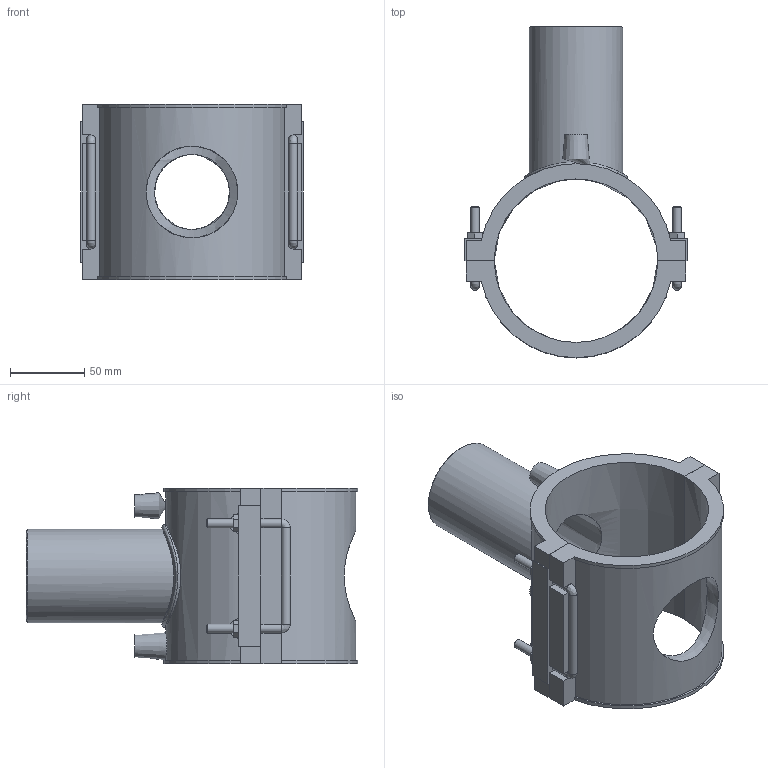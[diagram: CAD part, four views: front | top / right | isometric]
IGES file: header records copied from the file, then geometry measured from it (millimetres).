
Global section: file name: 495804110063.ipt; native system: Autodesk Inventor 2015; preprocessor: unknown; author: KIM; date: 20180426.120837; units: millimetre
Bounding box: 150 x 223.28 x 118 mm (x, y, z)
Volume: 549362.2 mm3; surface area: 148899.1 mm2
Topology: 2 solids, 2 shells, 133 faces, 340 edges, 214 vertices
Faces by surface type: plane 85, cylinder 22, revolution 10, bspline 9, cone 7
Full cylindrical faces by diameter (mm): 4 x2, 6 x10, 63 x1, 69.3 x1
